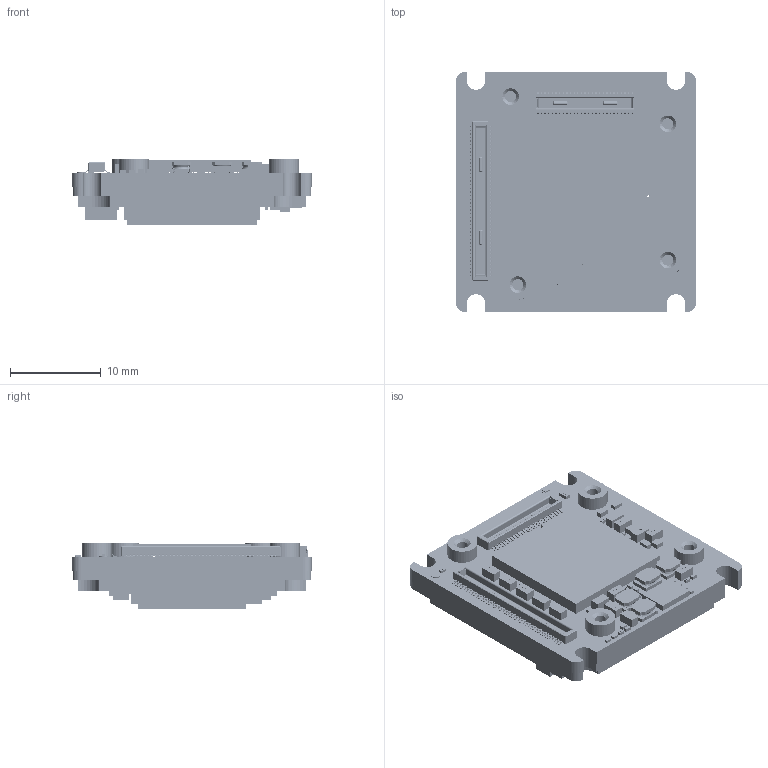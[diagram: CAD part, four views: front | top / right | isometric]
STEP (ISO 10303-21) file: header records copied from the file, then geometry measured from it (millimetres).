
FILE_DESCRIPTION (( 'STEP AP214' ), '1' );
FILE_NAME ('Alvium-Extended-Bare-Board-IMX226.STEP', '2022-12-21T10:35:30', ( '' ), ( '' ), 'SwSTEP 2.0', 'SolidWorks 2021', '' );
FILE_SCHEMA (( 'AUTOMOTIVE_DESIGN' ));
Length unit declared in the file: millimetre
Products named in the file (1): Alvium-Extended-Bare-Board-IMX226
Bounding box: 26.4 x 26.4 x 7.27 mm (x, y, z)
Volume: 3224.6 mm3; surface area: 4191.2 mm2
Topology: 150 solids, 150 shells, 9701 faces, 24906 edges, 16372 vertices
Faces by surface type: plane 4677, bspline 3946, cylinder 1014, torus 40, cone 24
Entity records: 624020 total; most frequent: CARTESIAN_POINT 305804, ORIENTED_EDGE 49796, DIRECTION 30506, EDGE_CURVE 24898, VERTEX_POINT 16372, VECTOR 14826, LINE 14826, EDGE_LOOP 10584
